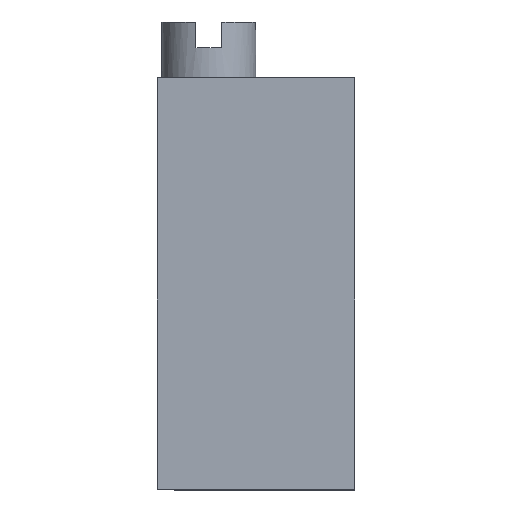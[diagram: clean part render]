
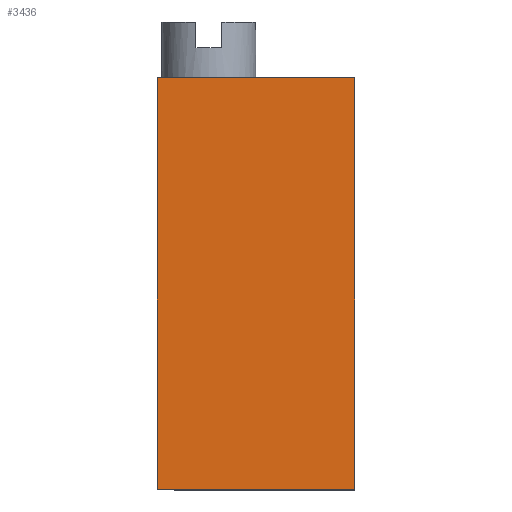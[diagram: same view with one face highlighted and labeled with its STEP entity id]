
A CAD part, top view. The second image highlights one B-rep face of the part: STEP entity #3436.
In plain terms, the highlighted planar face has unit normal (0, 0, 1).
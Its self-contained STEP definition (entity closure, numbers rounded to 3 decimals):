
#405=ORIENTED_EDGE('',*,*,#1139,.F.);
#406=ORIENTED_EDGE('',*,*,#1135,.F.);
#407=ORIENTED_EDGE('',*,*,#1140,.T.);
#408=ORIENTED_EDGE('',*,*,#1011,.T.);
#1011=EDGE_CURVE('',#1382,#1380,#1630,.T.);
#1135=EDGE_CURVE('',#1500,#1501,#1655,.T.);
#1139=EDGE_CURVE('',#1501,#1380,#1659,.T.);
#1140=EDGE_CURVE('',#1500,#1382,#1660,.T.);
#1380=VERTEX_POINT('',#4145);
#1382=VERTEX_POINT('',#4148);
#1500=VERTEX_POINT('',#4758);
#1501=VERTEX_POINT('',#4760);
#1630=LINE('',#4147,#1775);
#1655=LINE('',#4759,#1800);
#1659=LINE('',#4766,#1804);
#1660=LINE('',#4767,#1805);
#1775=VECTOR('',#3724,1000.);
#1800=VECTOR('',#3773,1000.);
#1804=VECTOR('',#3779,1000.);
#1805=VECTOR('',#3780,1000.);
#1941=EDGE_LOOP('',(#405,#406,#407,#408));
#2114=FACE_BOUND('',#1941,.T.);
#2272=PLANE('',#3594);
#3436=ADVANCED_FACE('',(#2114),#2272,.T.);
#3594=AXIS2_PLACEMENT_3D('',#4765,#3777,#3778);
#3724=DIRECTION('',(0.,-1.,0.));
#3773=DIRECTION('',(0.,-1.,0.));
#3777=DIRECTION('',(0.,0.,1.));
#3778=DIRECTION('',(1.,0.,0.));
#3779=DIRECTION('',(-1.,0.,0.));
#3780=DIRECTION('',(-1.,0.,0.));
#4145=CARTESIAN_POINT('',(-2.3,0.,4.85));
#4147=CARTESIAN_POINT('',(-2.3,9.6,4.85));
#4148=CARTESIAN_POINT('',(-2.3,9.6,4.85));
#4758=CARTESIAN_POINT('',(2.3,9.6,4.85));
#4759=CARTESIAN_POINT('',(2.3,9.6,4.85));
#4760=CARTESIAN_POINT('',(2.3,0.,4.85));
#4765=CARTESIAN_POINT('',(2.3,9.6,4.85));
#4766=CARTESIAN_POINT('',(2.3,0.,4.85));
#4767=CARTESIAN_POINT('',(2.3,9.6,4.85));
